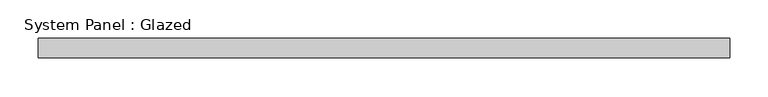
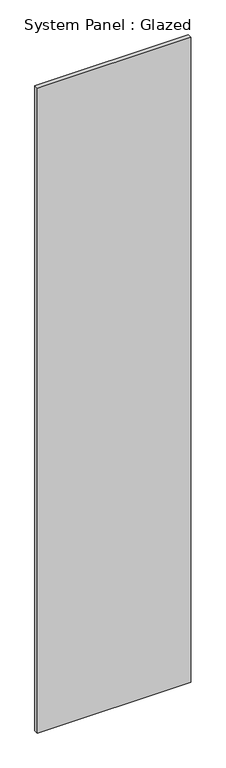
"""IFC4 building model written with IfcOpenShell, lengths in millimetres: plate geometry, System Panel : Glazed."""

from ifc_helpers import new_model, si_unit, origin, origin_with_axes, place, context, project, spatial, polyline, outline, extrude, source, transform, mapped, element, save


def system_panel_glazed_8eb3f3f8(model_context):
    return source(origin(), model_context, "Body", "SweptSolid", [
        extrude(outline(polyline([(449.9999998, 24.5), (-449.9999998, 24.5), (-449.9999998, 49.5), (449.9999998, 49.5), (449.9999998, 24.5)])), origin_with_axes(), (0.0, 0.0, 1.0), 4000.0),
    ])


if __name__ == "__main__":
    model = new_model("IFC4")
    model_context = context("Model", 3, world=origin())
    ifc_project = project(units=[si_unit("LENGTHUNIT", "METRE", prefix="MILLI")], contexts=[model_context])
    site = spatial("IfcSite", under=ifc_project)
    building = spatial("IfcBuilding", under=site)
    placement = place(None, origin())
    system_panel_glazed_shape = system_panel_glazed_8eb3f3f8(model_context)
    element("IfcPlate", 1, ObjectType="System Panel : Glazed", at=placement, inside=building, context=model_context, shape_type="MappedRepresentation", body=[
        mapped(system_panel_glazed_shape, transform((0.0, 0.0, 0.0), x_axis=(1.0, 0.0, 0.0), y_axis=(0.0, 1.0, 0.0), z_axis=(0.0, 0.0, 1.0))),
    ])
    save(model, "model.ifc")
